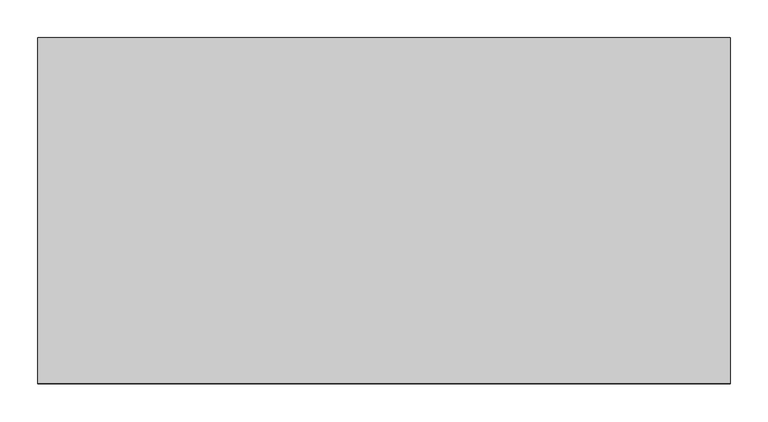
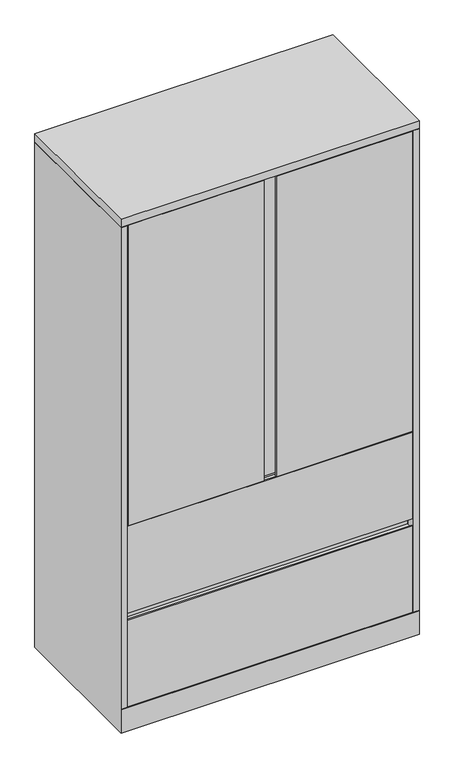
"""IFC4 building model written with IfcOpenShell, lengths in millimetres: furniture geometry, Steelcase - Universal Storage - Cabinet - Combination - Flush Steel : 65 1/2H - 2 Drawers - 18D x 36W."""

from ifc_helpers import new_model, si_unit, frame, origin, place, context, project, spatial, polyline, outline, extrude, faceted_brep, source, transform, mapped, element, save


def furniture_8d5e8793(model_context):
    return source(origin(), model_context, "Body", "SolidModel", [
        extrude(outline(polyline([(21.8068168, -431.673866), (893.572, -431.673866), (893.572, -457.2), (476.25, -457.2), (476.25, -452.883482), (489.4189152, -452.883482), (489.4189152, -438.0238781), (438.15, -438.0238781), (438.15, -457.2), (21.8068168, -457.2), (21.8068168, -431.673866)])), frame((0.0, 0.0, 663.956), z_axis=(0.0, 0.0, 1.0), x_axis=(1.0, 0.0, 0.0)), (0.0, 0.0, 1.0), 972.82),
        extrude(outline(polyline([(914.4, 0.0), (914.4, -457.2), (0.0, -457.2), (0.0, 0.0), (914.4, 0.0)])), frame((0.0, 0.0, 1638.2999516), z_axis=(0.0, 0.0, 1.0), x_axis=(1.0, 0.0, 0.0)), (0.0, 0.0, 1.0), 25.4000484),
        extrude(outline(polyline([(-457.2, 358.7750484), (-454.0242491, 358.7750484), (-454.0242491, 349.2500484), (-431.673866, 349.2500484), (-431.673866, 381.0), (-430.1498674, 381.0), (-430.1498674, 349.2500484), (-430.1498674, 77.724), (-457.2, 77.724), (-457.2, 358.7750484)])), frame((20.8280006, 0.0, 0.0), z_axis=(1.0, 0.0, 0.0), x_axis=(0.0, 1.0, 0.0)), (0.0, 0.0, 1.0), 872.7439994),
        extrude(outline(polyline([(889.0000242, -25.4000008), (889.0000242, -430.1498674), (25.4000008, -430.1498674), (25.4000008, -25.4000008), (889.0000242, -25.4000008)])), frame((0.0, 0.0, 358.7750484), z_axis=(0.0, 0.0, 1.0), x_axis=(1.0, 0.0, 0.0)), (0.0, 0.0, 1.0), 22.2249516),
        extrude(outline(polyline([(889.0000242, -25.4000008), (889.0000242, -430.1498674), (25.4000008, -430.1498674), (25.4000008, -25.4000008), (889.0000242, -25.4000008)])), frame((0.0, 0.0, 1268.6030484), z_axis=(0.0, 0.0, 1.0), x_axis=(1.0, 0.0, 0.0)), (0.0, 0.0, 1.0), 22.2249516),
        extrude(outline(polyline([(889.0000242, -25.4000008), (889.0000242, -430.1498674), (25.4000008, -430.1498674), (25.4000008, -25.4000008), (889.0000242, -25.4000008)])), frame((0.0, 0.0, 965.3270484), z_axis=(0.0, 0.0, 1.0), x_axis=(1.0, 0.0, 0.0)), (0.0, 0.0, 1.0), 22.2249516),
        extrude(outline(polyline([(-457.2, 662.0510484), (-454.0242491, 662.0510484), (-454.0242491, 652.5260484), (-431.673866, 652.5260484), (-431.673866, 684.276), (-430.1498674, 684.276), (-430.1498674, 652.5260484), (-430.1498674, 381.0), (-457.2, 381.0), (-457.2, 662.0510484)])), frame((20.8280006, 0.0, 0.0), z_axis=(1.0, 0.0, 0.0), x_axis=(0.0, 1.0, 0.0)), (0.0, 0.0, 1.0), 872.7439994),
        extrude(outline(polyline([(889.0000242, -25.4000008), (889.0000242, -430.1498674), (25.4000008, -430.1498674), (25.4000008, -25.4000008), (889.0000242, -25.4000008)])), frame((0.0, 0.0, 662.0510484), z_axis=(0.0, 0.0, 1.0), x_axis=(1.0, 0.0, 0.0)), (0.0, 0.0, 1.0), 22.2249516),
        faceted_brep([(914.4, 0.0, 0.0), (914.4, -457.2, 0.0), (0.0, -457.2, 0.0), (0.0, 0.0, 0.0), (0.0, 0.0, 1636.776), (914.4, 0.0, 1636.776), (0.0, -457.2, 76.2), (0.0, -457.2, 77.724), (0.0, -457.2, 1636.776), (914.4, -457.2, 76.2), (914.4, -457.2, 1636.776), (914.4, -457.2, 77.724), (889.0000242, -25.4000008, 1636.776), (889.0000242, -430.1498674, 1636.776), (893.572, -430.1498674, 1636.776), (893.572, -431.6738781, 1636.776), (895.096, -431.6738781, 1636.776), (895.096, -457.2, 1636.776), (19.304, -457.2, 1636.776), (19.304, -431.673866, 1636.776), (20.8280006, -431.673866, 1636.776), (20.8280006, -430.1498674, 1636.776), (25.4000008, -430.1498674, 1636.776), (25.4000008, -25.4000008, 1636.776), (19.304, -457.2, 77.724), (19.304, -437.896, 77.724), (895.096, -457.2, 77.724), (895.096, -437.7698418, 77.724), (889.0000242, -25.4000008, 77.724), (889.0000242, -430.1498674, 77.724), (893.572, -430.1498674, 77.724), (893.572, -431.6738781, 77.724), (895.096, -431.6738781, 77.724), (19.304, -431.673866, 77.724), (20.8280006, -431.673866, 77.724), (20.8280006, -430.1498674, 77.724), (25.4000008, -430.1498674, 77.724), (25.4000008, -25.4000008, 77.724), (25.526134, -431.673866, 77.724), (889.0000242, -431.673866, 77.724)], [[[0, 1, 2, 3]], [[0, 3, 4, 5]], [[4, 3, 2, 6, 7, 8]], [[2, 1, 9, 6]], [[1, 0, 5, 10, 11, 9]], [[12, 13, 14, 15, 16, 17, 10, 5, 4, 8, 18, 19, 20, 21, 22, 23]], [[24, 7, 25]], [[11, 26, 27]], [[13, 12, 28, 29]], [[14, 13, 29, 30]], [[15, 14, 30, 31]], [[16, 15, 31, 32]], [[17, 16, 32, 27, 26]], [[10, 17, 26, 11]], [[18, 8, 7, 24]], [[19, 18, 24, 25, 33]], [[20, 19, 33, 34]], [[21, 20, 34, 35]], [[22, 21, 35, 36]], [[23, 22, 36, 37]], [[12, 23, 37, 28]], [[38, 39, 27, 32, 31, 30, 29, 28, 37, 36, 35, 34, 33, 25]], [[7, 6, 38, 25]], [[39, 38, 6, 9]], [[39, 9, 11, 27]]]),
    ])


if __name__ == "__main__":
    model = new_model("IFC4")
    model_context = context("Model", 3, world=origin())
    ifc_project = project(units=[si_unit("LENGTHUNIT", "METRE", prefix="MILLI")], contexts=[model_context])
    site = spatial("IfcSite", under=ifc_project)
    building = spatial("IfcBuilding", under=site)
    placement = place(None, origin())
    furniture_shape = furniture_8d5e8793(model_context)
    element("IfcFurniture", 1, ObjectType="Steelcase - Universal Storage - Cabinet - Combination - Flush Steel : 65 1/2H - 2 Drawers - 18D x 36W", at=placement, inside=building, context=model_context, shape_type="MappedRepresentation", body=[
        mapped(furniture_shape, transform((0.0, 0.0, 0.0), x_axis=(1.0, 0.0, 0.0), y_axis=(0.0, 1.0, 0.0), z_axis=(0.0, 0.0, 1.0))),
    ])
    save(model, "model.ifc")
